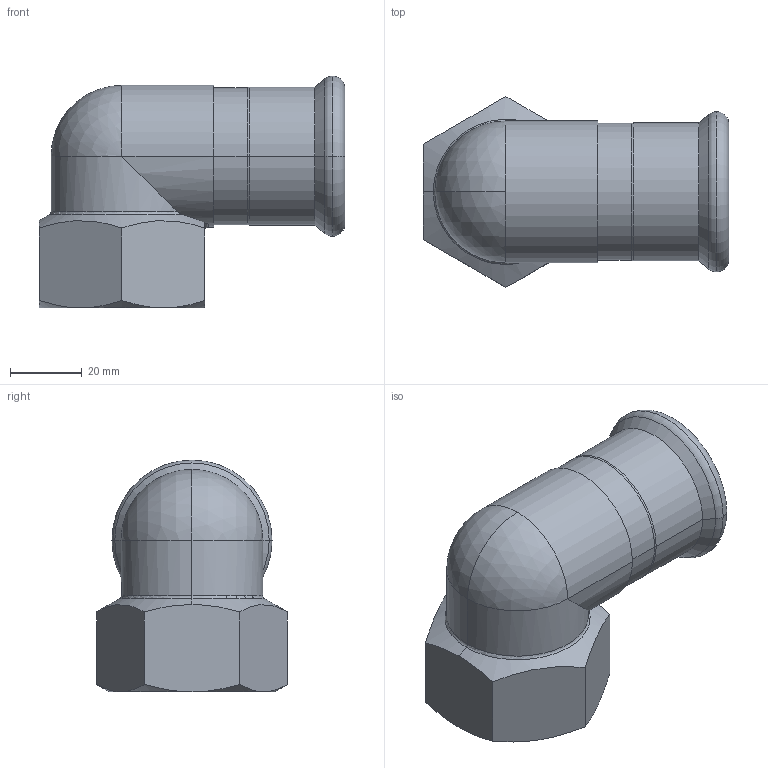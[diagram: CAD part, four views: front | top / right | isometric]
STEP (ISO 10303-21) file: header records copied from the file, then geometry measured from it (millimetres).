
FILE_DESCRIPTION(('OneSpaceDesigner STEP Export'),'2;1');
FILE_NAME('R2709 35xG1 1-4.stp','2010-06-09T14:48:22',(''),(''),'OneSpace Designer STEP processor for AP214 (Solid Model)','OneSpace Modeling 15.00A 14-Mar-2007 (C) CoCreate Software GmbH','');
FILE_SCHEMA(('AUTOMOTIVE_DESIGN { 1 0 10303 214 1 1 1 1 }'));
Length unit declared in the file: millimetre
Products named in the file (2): R2709_35xG1_1-4
Assembly tree (1 placements, depth 2):
  R2709_35xG1_1-4
    R2709_35xG1_1-4
Bounding box: 85 x 53.12 x 64.47 mm (x, y, z)
Volume: 37375 mm3; surface area: 27809.5 mm2
Topology: 1 solids, 1 shells, 92 faces, 226 edges, 140 vertices
Faces by surface type: plane 40, cylinder 29, cone 10, torus 9, sphere 4
Entity records: 3667 total; most frequent: CARTESIAN_POINT 1701, ORIENTED_EDGE 444, DIRECTION 327, EDGE_CURVE 222, VERTEX_POINT 140, AXIS2_PLACEMENT_3D 112, EDGE_LOOP 108, VECTOR 103
